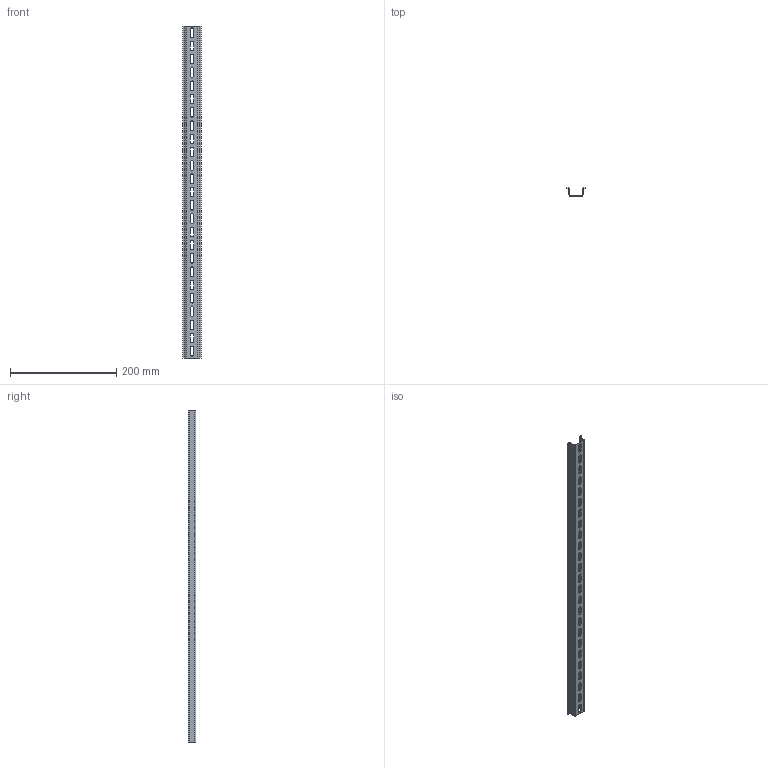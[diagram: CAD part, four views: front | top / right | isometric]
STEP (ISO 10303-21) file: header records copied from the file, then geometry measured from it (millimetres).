
FILE_DESCRIPTION(('STEP AP203'), '1');
FILE_NAME('DR 15.625 DIN-ðåéêà', '2018-06-05T06:12:03', (' '), (''), 'ASCON STEP Converter 1.3', 'ASCON Math Kernel', '');
FILE_SCHEMA(('CONFIG_CONTROL_DESIGN'));
Length unit declared in the file: millimetre
Products named in the file (1): DR 15.625
Bounding box: 35 x 15 x 625 mm (x, y, z)
Volume: 41624.1 mm3; surface area: 72301.8 mm2
Topology: 1 solids, 1 shells, 138 faces, 376 edges, 240 vertices
Faces by surface type: plane 80, cylinder 58
Entity records: 5588 total; most frequent: DIRECTION 770, CARTESIAN_POINT 755, ORIENTED_EDGE 752, EDGE_CURVE 376, LINE 260, VECTOR 260, AXIS2_PLACEMENT_3D 255, VERTEX_POINT 240
